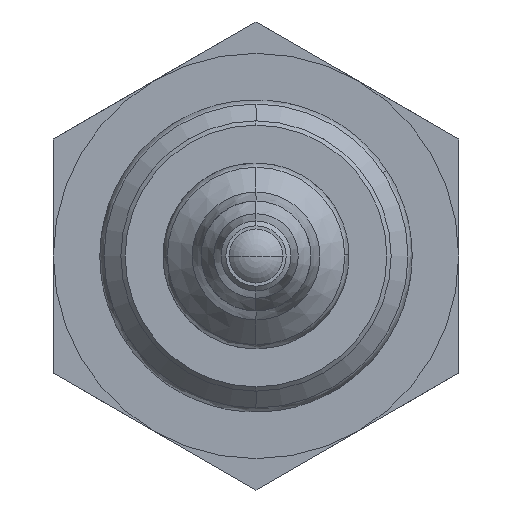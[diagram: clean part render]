
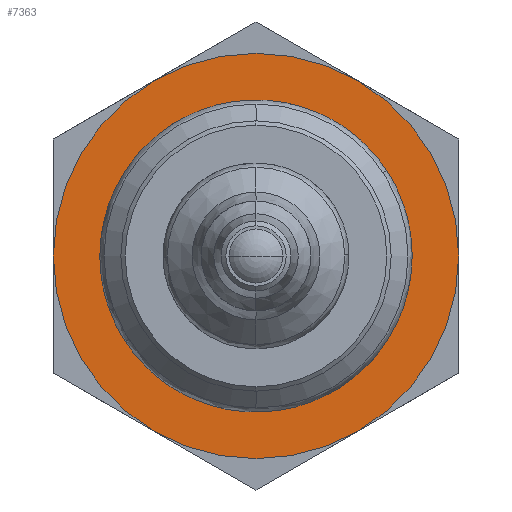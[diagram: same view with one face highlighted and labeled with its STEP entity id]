
A CAD part, front view. The second image highlights one B-rep face of the part: STEP entity #7363.
In plain terms, the highlighted planar face has unit normal (0, -1, 0).
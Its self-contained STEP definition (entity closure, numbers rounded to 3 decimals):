
#890 = PLANE ( 'NONE',  #12767 ) ;
#897 = CARTESIAN_POINT ( 'NONE',  ( -4.105, 23.001, 0. ) ) ;
#898 = DIRECTION ( 'NONE',  ( 0., 1., 0. ) ) ;
#899 = DIRECTION ( 'NONE',  ( 0., 0., 1. ) ) ;
#1641 = CARTESIAN_POINT ( 'NONE',  ( 0., 23.001, 0. ) ) ;
#1642 = DIRECTION ( 'NONE',  ( 0., 1., 0. ) ) ;
#1643 = DIRECTION ( 'NONE',  ( 0., 0., 1. ) ) ;
#2067 = VERTEX_POINT ( 'NONE', #11024 ) ;
#2068 = VERTEX_POINT ( 'NONE', #11025 ) ;
#2202 = AXIS2_PLACEMENT_3D ( 'NONE', #6637, #6638, #6639 ) ;
#2203 = AXIS2_PLACEMENT_3D ( 'NONE', #6641, #6642, #6643 ) ;
#2204 = AXIS2_PLACEMENT_3D ( 'NONE', #6646, #6647, #6648 ) ;
#4378 = EDGE_CURVE ( 'NONE', #2067, #2068, #9702, .T. ) ;
#6637 = CARTESIAN_POINT ( 'NONE',  ( 0., 23.001, 0. ) ) ;
#6638 = DIRECTION ( 'NONE',  ( 0., 1., 0. ) ) ;
#6639 = DIRECTION ( 'NONE',  ( 0., 0., 1. ) ) ;
#6641 = CARTESIAN_POINT ( 'NONE',  ( 0., 23.001, 0. ) ) ;
#6642 = DIRECTION ( 'NONE',  ( 0., 1., 0. ) ) ;
#6643 = DIRECTION ( 'NONE',  ( 0., 0., 1. ) ) ;
#6646 = CARTESIAN_POINT ( 'NONE',  ( 0., 23.001, 0. ) ) ;
#6647 = DIRECTION ( 'NONE',  ( 0., 1., 0. ) ) ;
#6648 = DIRECTION ( 'NONE',  ( 0., 0., 1. ) ) ;
#7363 = ADVANCED_FACE ( 'NONE', ( #12619, #12623 ), #890, .F. ) ;
#7817 = CARTESIAN_POINT ( 'NONE',  ( 0., 23.001, -8.25 ) ) ;
#7820 = CARTESIAN_POINT ( 'NONE',  ( 0., 23.001, 8.25 ) ) ;
#9702 = CIRCLE ( 'NONE', #15882, 12. ) ;
#11024 = CARTESIAN_POINT ( 'NONE',  ( 0., 23.001, 12. ) ) ;
#11025 = CARTESIAN_POINT ( 'NONE',  ( 0., 23.001, -12. ) ) ;
#11187 = VERTEX_POINT ( 'NONE', #7817 ) ;
#11190 = VERTEX_POINT ( 'NONE', #7820 ) ;
#12619 = FACE_OUTER_BOUND ( 'NONE', #15173, .T. ) ;
#12623 = FACE_BOUND ( 'NONE', #15165, .T. ) ;
#12767 = AXIS2_PLACEMENT_3D ( 'NONE', #897, #898, #899 ) ;
#12999 = CIRCLE ( 'NONE', #2204, 8.25 ) ;
#13002 = CIRCLE ( 'NONE', #2202, 12. ) ;
#13004 = CIRCLE ( 'NONE', #2203, 8.25 ) ;
#14413 = EDGE_CURVE ( 'NONE', #2068, #2067, #13002, .T. ) ;
#14414 = EDGE_CURVE ( 'NONE', #11190, #11187, #13004, .T. ) ;
#14415 = EDGE_CURVE ( 'NONE', #11187, #11190, #12999, .T. ) ;
#14949 = ORIENTED_EDGE ( 'NONE', *, *, #4378, .F. ) ;
#14950 = ORIENTED_EDGE ( 'NONE', *, *, #14413, .F. ) ;
#14951 = ORIENTED_EDGE ( 'NONE', *, *, #14414, .T. ) ;
#14952 = ORIENTED_EDGE ( 'NONE', *, *, #14415, .T. ) ;
#15165 = EDGE_LOOP ( 'NONE', ( #14951, #14952 ) ) ;
#15173 = EDGE_LOOP ( 'NONE', ( #14949, #14950 ) ) ;
#15882 = AXIS2_PLACEMENT_3D ( 'NONE', #1641, #1642, #1643 ) ;
